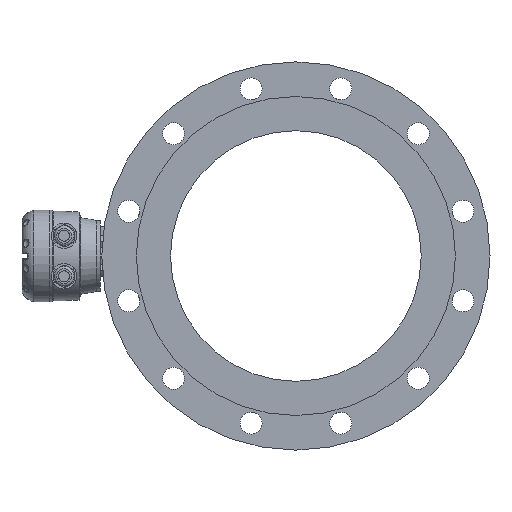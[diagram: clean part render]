
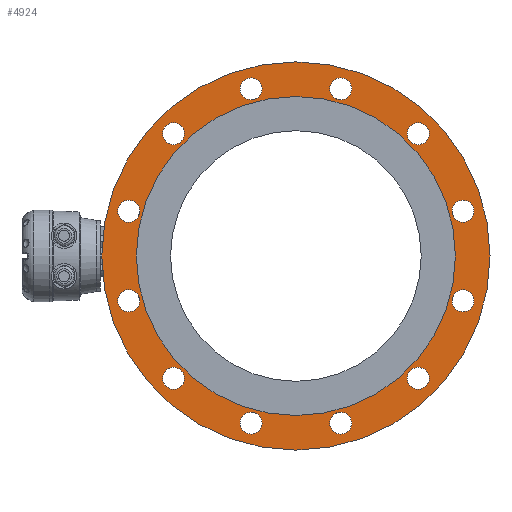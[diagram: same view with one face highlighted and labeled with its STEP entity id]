
A CAD part, left-side view. The second image highlights one B-rep face of the part: STEP entity #4924.
In plain terms, the highlighted planar face has unit normal (-1, 0, 0).
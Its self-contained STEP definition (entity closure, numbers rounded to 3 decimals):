
#140 = EDGE_CURVE ( 'NONE', #11955, #11955, #10559, .T. ) ;
#146 = EDGE_CURVE ( 'NONE', #11957, #11957, #10580, .T. ) ;
#153 = EDGE_CURVE ( 'NONE', #11959, #11959, #10602, .T. ) ;
#172 = EDGE_CURVE ( 'NONE', #11961, #11961, #10667, .T. ) ;
#174 = EDGE_CURVE ( 'NONE', #11963, #11963, #10671, .T. ) ;
#177 = EDGE_CURVE ( 'NONE', #11965, #11965, #10683, .T. ) ;
#197 = EDGE_CURVE ( 'NONE', #11971, #11971, #10758, .T. ) ;
#201 = EDGE_CURVE ( 'NONE', #11973, #11973, #10773, .T. ) ;
#203 = EDGE_CURVE ( 'NONE', #11975, #11975, #10780, .T. ) ;
#214 = EDGE_CURVE ( 'NONE', #11981, #11981, #10809, .T. ) ;
#227 = EDGE_CURVE ( 'NONE', #11985, #11985, #10847, .T. ) ;
#228 = EDGE_CURVE ( 'NONE', #11987, #11987, #10851, .T. ) ;
#2498 = DIRECTION ( 'NONE',  ( 0., 0., 1. ) ) ;
#2499 = DIRECTION ( 'NONE',  ( -1., 0., 0. ) ) ;
#2500 = DIRECTION ( 'NONE',  ( 0., 0., -1. ) ) ;
#2501 = DIRECTION ( 'NONE',  ( 1., 0., 0. ) ) ;
#2509 = CARTESIAN_POINT ( 'NONE',  ( -238.805, -225.017, -10.543 ) ) ;
#2512 = CARTESIAN_POINT ( 'NONE',  ( -238.805, -80.06, 134.414 ) ) ;
#2529 = DIRECTION ( 'NONE',  ( 0., 0., 1. ) ) ;
#2530 = DIRECTION ( 'NONE',  ( -1., 0., 0. ) ) ;
#2536 = CARTESIAN_POINT ( 'NONE',  ( -238.805, -171.959, -208.558 ) ) ;
#2559 = DIRECTION ( 'NONE',  ( 0., 0., 1. ) ) ;
#2560 = DIRECTION ( 'NONE',  ( -1., 0., 0. ) ) ;
#2563 = DIRECTION ( 'NONE',  ( 0., 0., 1. ) ) ;
#2564 = DIRECTION ( 'NONE',  ( -1., 0., 0. ) ) ;
#2571 = CARTESIAN_POINT ( 'NONE',  ( -238.805, -27.002, -63.601 ) ) ;
#2572 = DIRECTION ( 'NONE',  ( 0., 0., 1. ) ) ;
#2573 = DIRECTION ( 'NONE',  ( -1., 0., 0. ) ) ;
#2575 = CARTESIAN_POINT ( 'NONE',  ( -238.805, -369.974, 134.414 ) ) ;
#2577 = CARTESIAN_POINT ( 'NONE',  ( -238.805, -278.075, -208.558 ) ) ;
#2615 = DIRECTION ( 'NONE',  ( 0., 0., 1. ) ) ;
#2616 = DIRECTION ( 'NONE',  ( -1., 0., 0. ) ) ;
#2617 = CARTESIAN_POINT ( 'NONE',  ( -238.805, -423.032, 42.515 ) ) ;
#2623 = DIRECTION ( 'NONE',  ( 0., 0., 1. ) ) ;
#2624 = DIRECTION ( 'NONE',  ( -1., 0., 0. ) ) ;
#2627 = CARTESIAN_POINT ( 'NONE',  ( -238.805, -278.075, 187.472 ) ) ;
#2628 = DIRECTION ( 'NONE',  ( 0., 0., 1. ) ) ;
#2629 = DIRECTION ( 'NONE',  ( -1., 0., 0. ) ) ;
#2631 = CARTESIAN_POINT ( 'NONE',  ( -238.805, -80.06, -155.5 ) ) ;
#2669 = DIRECTION ( 'NONE',  ( 0., 0., 1. ) ) ;
#2670 = DIRECTION ( 'NONE',  ( -1., 0., 0. ) ) ;
#2672 = CARTESIAN_POINT ( 'NONE',  ( -238.805, -171.959, 187.472 ) ) ;
#2683 = DIRECTION ( 'NONE',  ( 0., 0., 1. ) ) ;
#2684 = DIRECTION ( 'NONE',  ( -1., 0., 0. ) ) ;
#2685 = CARTESIAN_POINT ( 'NONE',  ( -238.805, -423.032, -63.601 ) ) ;
#2696 = DIRECTION ( 'NONE',  ( 0., 0., 1. ) ) ;
#2697 = DIRECTION ( 'NONE',  ( -1., 0., 0. ) ) ;
#2704 = CARTESIAN_POINT ( 'NONE',  ( -238.805, -27.002, 42.515 ) ) ;
#3863 = PLANE ( 'NONE',  #6868 ) ;
#3867 = CARTESIAN_POINT ( 'NONE',  ( -238.805, -225.017, -10.543 ) ) ;
#3868 = DIRECTION ( 'NONE',  ( -1., 0., 0. ) ) ;
#3869 = DIRECTION ( 'NONE',  ( 0., 0., -1. ) ) ;
#4924 = ADVANCED_FACE ( 'NONE', ( #7267, #7273, #7275, #7277, #7271, #7266, #7274, #7276, #7278, #7272, #7279, #7280, #7281, #7282 ), #3863, .T. ) ;
#5772 = ORIENTED_EDGE ( 'NONE', *, *, #140, .F. ) ;
#5773 = ORIENTED_EDGE ( 'NONE', *, *, #228, .F. ) ;
#5774 = ORIENTED_EDGE ( 'NONE', *, *, #153, .F. ) ;
#5775 = ORIENTED_EDGE ( 'NONE', *, *, #174, .F. ) ;
#5776 = ORIENTED_EDGE ( 'NONE', *, *, #197, .F. ) ;
#5777 = ORIENTED_EDGE ( 'NONE', *, *, #177, .F. ) ;
#5778 = ORIENTED_EDGE ( 'NONE', *, *, #146, .F. ) ;
#5779 = ORIENTED_EDGE ( 'NONE', *, *, #14224, .F. ) ;
#5780 = ORIENTED_EDGE ( 'NONE', *, *, #201, .F. ) ;
#5781 = ORIENTED_EDGE ( 'NONE', *, *, #214, .F. ) ;
#5782 = ORIENTED_EDGE ( 'NONE', *, *, #172, .F. ) ;
#5783 = ORIENTED_EDGE ( 'NONE', *, *, #203, .F. ) ;
#5784 = ORIENTED_EDGE ( 'NONE', *, *, #227, .F. ) ;
#5785 = ORIENTED_EDGE ( 'NONE', *, *, #6545, .T. ) ;
#6035 = EDGE_LOOP ( 'NONE', ( #5773 ) ) ;
#6056 = EDGE_LOOP ( 'NONE', ( #5774 ) ) ;
#6070 = EDGE_LOOP ( 'NONE', ( #5775 ) ) ;
#6100 = EDGE_LOOP ( 'NONE', ( #5776 ) ) ;
#6116 = EDGE_LOOP ( 'NONE', ( #5777 ) ) ;
#6163 = EDGE_LOOP ( 'NONE', ( #5778 ) ) ;
#6169 = EDGE_LOOP ( 'NONE', ( #5779 ) ) ;
#6186 = EDGE_LOOP ( 'NONE', ( #5780 ) ) ;
#6195 = EDGE_LOOP ( 'NONE', ( #5781 ) ) ;
#6260 = EDGE_LOOP ( 'NONE', ( #5783 ) ) ;
#6262 = EDGE_LOOP ( 'NONE', ( #5784 ) ) ;
#6280 = EDGE_LOOP ( 'NONE', ( #5782 ) ) ;
#6290 = EDGE_LOOP ( 'NONE', ( #5785 ) ) ;
#6340 = EDGE_LOOP ( 'NONE', ( #5772 ) ) ;
#6545 = EDGE_CURVE ( 'NONE', #12041, #12041, #7646, .T. ) ;
#6620 = AXIS2_PLACEMENT_3D ( 'NONE', #2685, #2684, #2683 ) ;
#6621 = AXIS2_PLACEMENT_3D ( 'NONE', #2617, #2616, #2615 ) ;
#6622 = AXIS2_PLACEMENT_3D ( 'NONE', #2672, #2670, #2669 ) ;
#6624 = AXIS2_PLACEMENT_3D ( 'NONE', #2704, #2697, #2696 ) ;
#6626 = AXIS2_PLACEMENT_3D ( 'NONE', #2631, #2629, #2628 ) ;
#6627 = AXIS2_PLACEMENT_3D ( 'NONE', #2627, #2624, #2623 ) ;
#6628 = AXIS2_PLACEMENT_3D ( 'NONE', #2575, #2573, #2572 ) ;
#6629 = AXIS2_PLACEMENT_3D ( 'NONE', #2577, #2564, #2563 ) ;
#6632 = AXIS2_PLACEMENT_3D ( 'NONE', #2571, #2560, #2559 ) ;
#6638 = AXIS2_PLACEMENT_3D ( 'NONE', #2536, #2530, #2529 ) ;
#6640 = AXIS2_PLACEMENT_3D ( 'NONE', #2509, #2501, #2500 ) ;
#6641 = AXIS2_PLACEMENT_3D ( 'NONE', #2512, #2499, #2498 ) ;
#6868 = AXIS2_PLACEMENT_3D ( 'NONE', #3867, #3868, #3869 ) ;
#6983 = AXIS2_PLACEMENT_3D ( 'NONE', #8725, #8732, #8733 ) ;
#7125 = AXIS2_PLACEMENT_3D ( 'NONE', #11539, #11551, #11553 ) ;
#7266 = FACE_BOUND ( 'NONE', #6116, .T. ) ;
#7267 = FACE_BOUND ( 'NONE', #6340, .T. ) ;
#7271 = FACE_BOUND ( 'NONE', #6100, .T. ) ;
#7272 = FACE_BOUND ( 'NONE', #6195, .T. ) ;
#7273 = FACE_BOUND ( 'NONE', #6035, .T. ) ;
#7274 = FACE_BOUND ( 'NONE', #6163, .T. ) ;
#7275 = FACE_BOUND ( 'NONE', #6056, .T. ) ;
#7276 = FACE_BOUND ( 'NONE', #6169, .T. ) ;
#7277 = FACE_BOUND ( 'NONE', #6070, .T. ) ;
#7278 = FACE_BOUND ( 'NONE', #6186, .T. ) ;
#7279 = FACE_BOUND ( 'NONE', #6280, .T. ) ;
#7280 = FACE_BOUND ( 'NONE', #6260, .T. ) ;
#7281 = FACE_OUTER_BOUND ( 'NONE', #6262, .T. ) ;
#7282 = FACE_BOUND ( 'NONE', #6290, .T. ) ;
#7646 = CIRCLE ( 'NONE', #6983, 189. ) ;
#8036 = CIRCLE ( 'NONE', #7125, 13. ) ;
#8725 = CARTESIAN_POINT ( 'NONE',  ( -238.805, -225.017, -10.543 ) ) ;
#8732 = DIRECTION ( 'NONE',  ( 1., 0., 0. ) ) ;
#8733 = DIRECTION ( 'NONE',  ( 0., 0., -1. ) ) ;
#10559 = CIRCLE ( 'NONE', #6624, 13. ) ;
#10580 = CIRCLE ( 'NONE', #6620, 13. ) ;
#10602 = CIRCLE ( 'NONE', #6622, 13. ) ;
#10667 = CIRCLE ( 'NONE', #6626, 13. ) ;
#10671 = CIRCLE ( 'NONE', #6627, 13. ) ;
#10683 = CIRCLE ( 'NONE', #6621, 13. ) ;
#10758 = CIRCLE ( 'NONE', #6628, 13. ) ;
#10773 = CIRCLE ( 'NONE', #6629, 13. ) ;
#10780 = CIRCLE ( 'NONE', #6632, 13. ) ;
#10809 = CIRCLE ( 'NONE', #6638, 13. ) ;
#10847 = CIRCLE ( 'NONE', #6640, 230. ) ;
#10851 = CIRCLE ( 'NONE', #6641, 13. ) ;
#11539 = CARTESIAN_POINT ( 'NONE',  ( -238.805, -369.974, -155.5 ) ) ;
#11551 = DIRECTION ( 'NONE',  ( -1., 0., 0. ) ) ;
#11553 = DIRECTION ( 'NONE',  ( 0., 0., 1. ) ) ;
#11955 = VERTEX_POINT ( 'NONE', #11956 ) ;
#11956 = CARTESIAN_POINT ( 'NONE',  ( -238.805, -27.002, 55.515 ) ) ;
#11957 = VERTEX_POINT ( 'NONE', #11958 ) ;
#11958 = CARTESIAN_POINT ( 'NONE',  ( -238.805, -423.032, -50.601 ) ) ;
#11959 = VERTEX_POINT ( 'NONE', #11960 ) ;
#11960 = CARTESIAN_POINT ( 'NONE',  ( -238.805, -171.959, 200.472 ) ) ;
#11961 = VERTEX_POINT ( 'NONE', #11962 ) ;
#11962 = CARTESIAN_POINT ( 'NONE',  ( -238.805, -80.06, -142.5 ) ) ;
#11963 = VERTEX_POINT ( 'NONE', #11964 ) ;
#11964 = CARTESIAN_POINT ( 'NONE',  ( -238.805, -278.075, 200.472 ) ) ;
#11965 = VERTEX_POINT ( 'NONE', #11966 ) ;
#11966 = CARTESIAN_POINT ( 'NONE',  ( -238.805, -423.032, 55.515 ) ) ;
#11971 = VERTEX_POINT ( 'NONE', #11972 ) ;
#11972 = CARTESIAN_POINT ( 'NONE',  ( -238.805, -369.974, 147.414 ) ) ;
#11973 = VERTEX_POINT ( 'NONE', #11974 ) ;
#11974 = CARTESIAN_POINT ( 'NONE',  ( -238.805, -278.075, -195.558 ) ) ;
#11975 = VERTEX_POINT ( 'NONE', #11976 ) ;
#11976 = CARTESIAN_POINT ( 'NONE',  ( -238.805, -27.002, -50.601 ) ) ;
#11981 = VERTEX_POINT ( 'NONE', #11982 ) ;
#11982 = CARTESIAN_POINT ( 'NONE',  ( -238.805, -171.959, -195.558 ) ) ;
#11985 = VERTEX_POINT ( 'NONE', #11986 ) ;
#11986 = CARTESIAN_POINT ( 'NONE',  ( -238.805, -225.017, -240.543 ) ) ;
#11987 = VERTEX_POINT ( 'NONE', #11988 ) ;
#11988 = CARTESIAN_POINT ( 'NONE',  ( -238.805, -80.06, 147.414 ) ) ;
#12041 = VERTEX_POINT ( 'NONE', #12042 ) ;
#12042 = CARTESIAN_POINT ( 'NONE',  ( -238.805, -225.017, -199.543 ) ) ;
#13959 = VERTEX_POINT ( 'NONE', #13960 ) ;
#13960 = CARTESIAN_POINT ( 'NONE',  ( -238.805, -369.974, -142.5 ) ) ;
#14224 = EDGE_CURVE ( 'NONE', #13959, #13959, #8036, .T. ) ;
